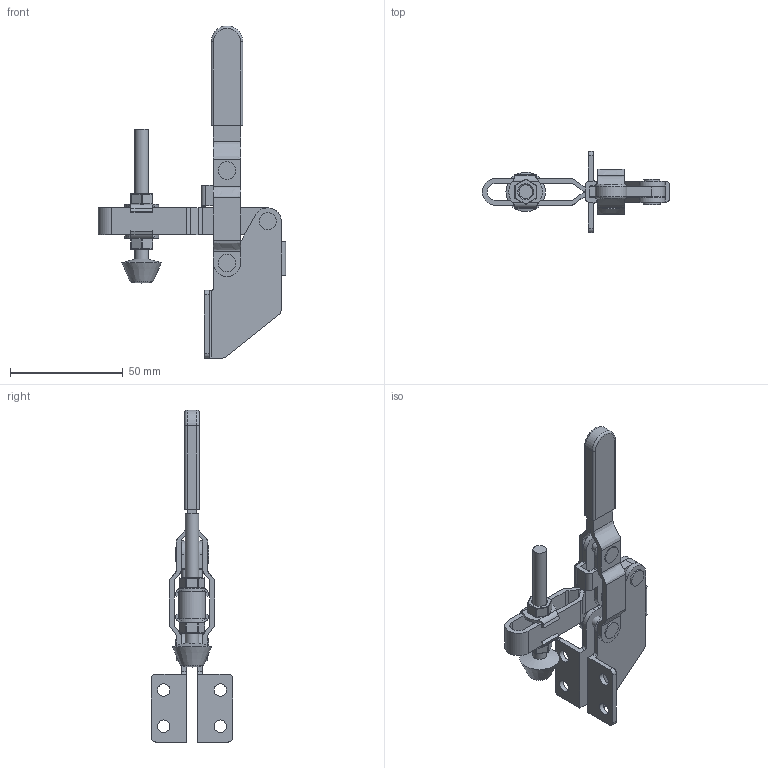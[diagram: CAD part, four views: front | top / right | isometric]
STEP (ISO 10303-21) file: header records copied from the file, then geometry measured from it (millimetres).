
FILE_DESCRIPTION(/* description */ (''),/* implementation_level */ '2;1');
FILE_NAME(/* name */ '\\NAS\db20\010-11A\DR_010-11A.stp',/* time_stamp */ '2018-03-02T12:58:53+09:00',/* author */ ('user'),/* organization */ (''),/* preprocessor_version */ 'ST-DEVELOPER v15.6',/* originating_system */ 'Autodesk Inventor 2015',/* authorisation */ '');
FILE_SCHEMA (('AUTOMOTIVE_DESIGN { 1 0 10303 214 3 1 1 }'));
Length unit declared in the file: millimetre
Products named in the file (9): DR_010-11A-B; DR_010-11A-BR; DR_010-11A-C; DR_010-11A-H; DR_NUT-M6; DR_TCB6-W; DR_TCB-M6; DR_010-11A
Bounding box: 83 x 36 x 147 mm (x, y, z)
Volume: 26710.6 mm3; surface area: 24459.5 mm2
Topology: 9 solids, 9 shells, 328 faces, 812 edges, 510 vertices
Faces by surface type: plane 140, cylinder 131, torus 26, bspline 21, cone 10
Full cylindrical faces by diameter (mm): 4 x7, 5 x7, 5.5 x4, 6 x3, 6.3 x2, 6.5 x2, 7 x1, 7.6 x2, 7.8 x3
Entity records: 8736 total; most frequent: CARTESIAN_POINT 2303, DIRECTION 1327, ORIENTED_EDGE 1224, EDGE_CURVE 612, AXIS2_PLACEMENT_3D 489, VERTEX_POINT 413, LINE 349, VECTOR 349
